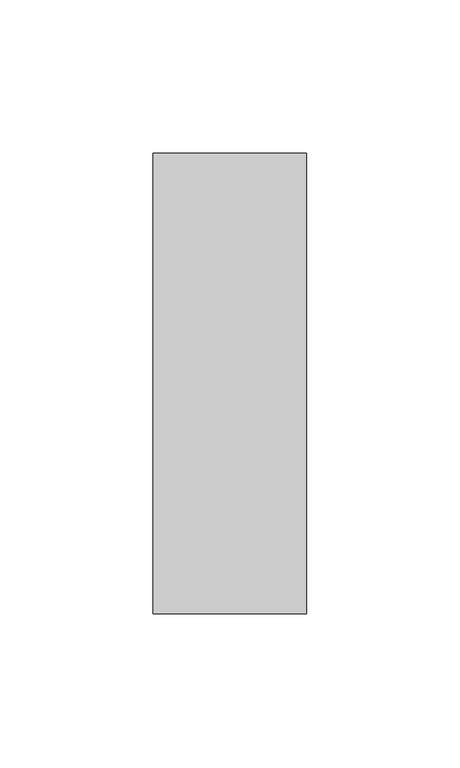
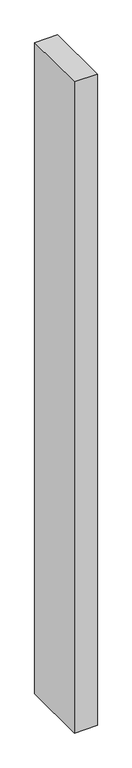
"""IFC4 building model written with IfcOpenShell, lengths in millimetres: member geometry, Прямоугольный импост : 50 x 150 мм."""

import ifcopenshell
import ifcopenshell.guid

model = None  # the IFC model being written
_history = None  # IfcOwnerHistory: only IFC2X3 demands one
_inside = {}  # id of a spatial element -> (the spatial element, [elements in it])
_under = {}  # id of a project, library or spatial element -> (it, [spatial elements below it])
_declared = {}  # id of a project -> (the project, [libraries it declares])
_typed = {}  # id of a type object -> (the type object, [elements of that type])
_made_of = {}  # id of a material, layer set ... -> (it, [elements and type objects made of it])


def new_model(schema):
    """Start an empty IFC model of exactly this schema.

    Asked for "IFC4X3", IfcOpenShell would pick the latest addendum, in which some entities
    have other attributes; the version numbers below select the first issue.
    IFC2X3 requires an IfcOwnerHistory on every rooted entity: one is made here for all.
    """
    global model, _history
    if schema == "IFC4X3":
        model = ifcopenshell.file(schema_version=(4, 3, 0, 0))
    else:
        model = ifcopenshell.file(schema=schema)
    _inside.clear()
    _under.clear()
    _declared.clear()
    _typed.clear()
    _made_of.clear()
    _history = None
    if model.schema == "IFC2X3":
        org = make("IfcOrganization", Name="unknown")
        user = make(
            "IfcPersonAndOrganization",
            ThePerson=make("IfcPerson", FamilyName="unknown"),
            TheOrganization=org,
        )
        app = make(
            "IfcApplication",
            ApplicationDeveloper=org,
            Version="unknown",
            ApplicationFullName="unknown",
            ApplicationIdentifier="unknown",
        )
        _history = make(
            "IfcOwnerHistory",
            OwningUser=user,
            OwningApplication=app,
            ChangeAction="ADDED",
            CreationDate=0,
        )
    return model


def make(cls, **values):
    """One entity of the class cls with the attributes given. An attribute that is None is left unset."""
    return model.create_entity(
        cls, **{name: value for name, value in values.items() if value is not None}
    )


def rooted(cls, **values):
    """An entity with a GlobalId (a new one), such as an element, a storey or a relation."""
    return make(cls, GlobalId=ifcopenshell.guid.new(), OwnerHistory=_history, **values)


def si_unit(unit_type, name, prefix=None):
    """IfcSIUnit, for example si_unit("LENGTHUNIT", "METRE", prefix="MILLI")."""
    return make("IfcSIUnit", UnitType=unit_type, Prefix=prefix, Name=name)


def assignment(units):
    """IfcUnitAssignment: the units of a project."""
    return None if units is None else make("IfcUnitAssignment", Units=units)


def point(xyz):
    """IfcCartesianPoint."""
    return None if xyz is None else make("IfcCartesianPoint", Coordinates=xyz)


def direction(xyz):
    """IfcDirection."""
    return None if xyz is None else make("IfcDirection", DirectionRatios=xyz)


def frame(location, z_axis=None, x_axis=None):
    """IfcAxis2Placement3D, a coordinate frame: its origin and axes. An axis left out is left unset."""
    return make(
        "IfcAxis2Placement3D",
        Location=point(location),
        Axis=direction(z_axis),
        RefDirection=direction(x_axis),
    )


def origin():
    """The frame at (0, 0, 0) with its axes left unset."""
    return frame((0.0, 0.0, 0.0))


def place(relative_to, where):
    """IfcLocalPlacement: puts the frame where relative to a parent placement (None: the world)."""
    return make(
        "IfcLocalPlacement", PlacementRelTo=relative_to, RelativePlacement=where
    )


def context(
    kind, dimensions, precision=None, world=None, true_north=None, identifier=None
):
    """IfcGeometricRepresentationContext, for example the 3D "Model" context."""
    return make(
        "IfcGeometricRepresentationContext",
        ContextIdentifier=identifier,
        ContextType=kind,
        CoordinateSpaceDimension=dimensions,
        Precision=precision,
        WorldCoordinateSystem=world,
        TrueNorth=true_north,
    )


def project(units=None, contexts=None):
    """IfcProject with its units and contexts."""
    return rooted(
        "IfcProject",
        Name="project",
        RepresentationContexts=contexts,
        UnitsInContext=assignment(units),
    )


def spatial(cls, under=None, at=None, **own):
    """A site, building, storey or space (cls), placed at a placement, below another one or the project."""
    s = rooted(cls, ObjectPlacement=at, **own)
    if under is not None:
        _under.setdefault(under.id(), (under, []))[1].append(s)
    return s


def polyline(points):
    """IfcPolyline through the points."""
    return make("IfcPolyline", Points=[point(p) for p in points])


def outline(outer, holes=None, kind="AREA"):
    """IfcArbitraryClosedProfileDef: a profile drawn as a closed curve; with holes, ...WithVoids."""
    if holes is None:
        return make("IfcArbitraryClosedProfileDef", ProfileType=kind, OuterCurve=outer)
    return make(
        "IfcArbitraryProfileDefWithVoids",
        ProfileType=kind,
        OuterCurve=outer,
        InnerCurves=holes,
    )


def extrude(swept, where, along, depth):
    """IfcExtrudedAreaSolid: the profile swept, set in the frame where, extruded along a direction by depth."""
    return make(
        "IfcExtrudedAreaSolid",
        SweptArea=swept,
        Position=where,
        ExtrudedDirection=direction(along),
        Depth=depth,
    )


def shape(context_of_items, identifier, shape_type, items):
    """IfcShapeRepresentation: the items that make up one representation, for example the "Body"."""
    return make(
        "IfcShapeRepresentation",
        ContextOfItems=context_of_items,
        RepresentationIdentifier=identifier,
        RepresentationType=shape_type,
        Items=items,
    )


def source(mapping_origin, context_of_items, identifier, shape_type, items):
    """IfcRepresentationMap: a shape defined once, which mapped items show again and again."""
    return make(
        "IfcRepresentationMap",
        MappingOrigin=mapping_origin,
        MappedRepresentation=shape(context_of_items, identifier, shape_type, items),
    )


def transform(
    local_origin,
    x_axis=None,
    y_axis=None,
    z_axis=None,
    scale=None,
    scale2=None,
    scale3=None,
    uniform=True,
):
    """IfcCartesianTransformationOperator3D, or its non-uniform kind. x_axis, y_axis, z_axis: its Axis1, 2, 3."""
    if uniform:
        return make(
            "IfcCartesianTransformationOperator3D",
            Axis1=direction(x_axis),
            Axis2=direction(y_axis),
            LocalOrigin=point(local_origin),
            Scale=scale,
            Axis3=direction(z_axis),
        )
    return make(
        "IfcCartesianTransformationOperator3DnonUniform",
        Axis1=direction(x_axis),
        Axis2=direction(y_axis),
        LocalOrigin=point(local_origin),
        Scale=scale,
        Axis3=direction(z_axis),
        Scale2=scale2,
        Scale3=scale3,
    )


def mapped(mapping_source, mapping_target):
    """IfcMappedItem: shows the shape of a source again, moved by a transform."""
    return make(
        "IfcMappedItem", MappingSource=mapping_source, MappingTarget=mapping_target
    )


def made_of(thing, what):
    """Note that an element or type object is made of a material, layer set ...; save() writes the relation."""
    if what is not None:
        _made_of.setdefault(what.id(), (what, []))[1].append(thing)
    return thing


def element(
    cls,
    number,
    at=None,
    inside=None,
    cuts=None,
    type_object=None,
    material=None,
    context=None,
    identifier="Body",
    shape_type=None,
    held_by="IfcProductDefinitionShape",
    body=None,
    shapes=None,
    **own,
):
    """One element of the class cls, such as IfcWall. Its Tag is "e" and its number.

    at: its placement. inside: the storey or other place that contains it. cuts: it is an
    opening in that element (IfcRelVoidsElement). A single representation is given by context,
    identifier, shape_type and body (its items); several are given by shapes. held_by: the class
    of the entity that holds the representations. save() writes the other relations.
    """
    e = rooted(cls, Tag="e%d" % number, ObjectPlacement=at, **own)
    if body is not None:
        shapes = [shape(context, identifier, shape_type, body)]
    if shapes is not None:
        e.Representation = make(held_by, Representations=shapes)
    if inside is not None:
        _inside.setdefault(inside.id(), (inside, []))[1].append(e)
    if cuts is not None:
        rooted(
            "IfcRelVoidsElement", RelatingBuildingElement=cuts, RelatedOpeningElement=e
        )
    if type_object is not None:
        _typed.setdefault(type_object.id(), (type_object, []))[1].append(e)
    return made_of(e, material)


def aggregate(whole, parts):
    """IfcRelAggregates: a whole, such as a stair, and the parts it consists of."""
    return rooted("IfcRelAggregates", RelatingObject=whole, RelatedObjects=parts)


def save(model, path):
    """Write the relations noted so far, then the file.

    IfcRelAggregates (storeys below a building ...), IfcRelContainedInSpatialStructure (elements
    in a storey), IfcRelDefinesByType, IfcRelAssociatesMaterial and IfcRelDeclares: one each for
    every whole, place, type object, material and project.
    """
    for whole, parts in _under.values():
        aggregate(whole, parts)
    for where, things in _inside.values():
        rooted(
            "IfcRelContainedInSpatialStructure",
            RelatedElements=things,
            RelatingStructure=where,
        )
    for kind, things in _typed.values():
        rooted("IfcRelDefinesByType", RelatedObjects=things, RelatingType=kind)
    for what, things in _made_of.values():
        rooted("IfcRelAssociatesMaterial", RelatedObjects=things, RelatingMaterial=what)
    for by, libraries in _declared.values():
        rooted("IfcRelDeclares", RelatingContext=by, RelatedDefinitions=libraries)
    model.write(path)


def member_d7d70d81(model_context):
    return source(origin(), model_context, "Body", "SweptSolid", [
        extrude(outline(polyline([(0.0, 75.0), (0.0, -75.0), (-50.0, -75.0), (-50.0, 75.0), (0.0, 75.0)])), frame((0.0, 0.0, -1501.3159651), z_axis=(0.0, 0.0, 1.0), x_axis=(1.0, 0.0, 0.0)), (0.0, 0.0, 1.0), 1501.3159651),
    ])


if __name__ == "__main__":
    model = new_model("IFC4")
    model_context = context("Model", 3, world=origin())
    ifc_project = project(units=[si_unit("LENGTHUNIT", "METRE", prefix="MILLI")], contexts=[model_context])
    site = spatial("IfcSite", under=ifc_project)
    building = spatial("IfcBuilding", under=site)
    placement = place(None, origin())
    member_shape = member_d7d70d81(model_context)
    element("IfcMember", 1, ObjectType="Прямоугольный импост : 50 x 150 мм", at=placement, inside=building, context=model_context, shape_type="MappedRepresentation", body=[
        mapped(member_shape, transform((0.0, 0.0, 0.0), x_axis=(1.0, 0.0, 0.0), y_axis=(0.0, 1.0, 0.0), z_axis=(0.0, 0.0, 1.0))),
    ])
    save(model, "model.ifc")
